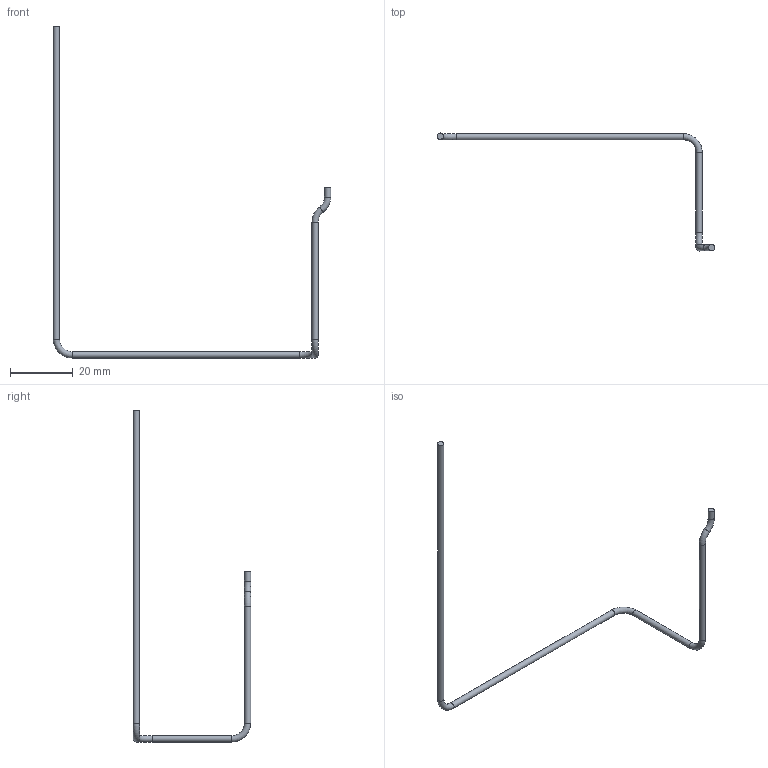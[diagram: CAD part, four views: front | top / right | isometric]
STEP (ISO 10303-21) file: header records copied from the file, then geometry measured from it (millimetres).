
FILE_DESCRIPTION(('Open CASCADE Model'),'2;1');
FILE_NAME('Open CASCADE Shape Model','2026-10-07T05:38:01',('Author'),( 'Open CASCADE'),'Open CASCADE STEP processor 7.7','Open CASCADE 7.7' ,'Unknown');
FILE_SCHEMA(('AUTOMOTIVE_DESIGN { 1 0 10303 214 1 1 1 1 }'));
Length unit declared in the file: millimetre
Products named in the file (1): Open CASCADE STEP translator 7.7 5
Bounding box: 88.6 x 37.51 x 106 mm (x, y, z)
Volume: 852.4 mm3; surface area: 1711.2 mm2
Topology: 1 solids, 1 shells, 12 faces, 21 edges, 11 vertices
Faces by surface type: cylinder 5, torus 5, plane 2
Full cylindrical faces by diameter (mm): 2 x5
Entity records: 553 total; most frequent: CARTESIAN_POINT 106, DIRECTION 86, ORIENTED_EDGE 42, PCURVE 42, DEFINITIONAL_REPRESENTATION 42, AXIS2_PLACEMENT_3D 29, LINE 26, VECTOR 26
